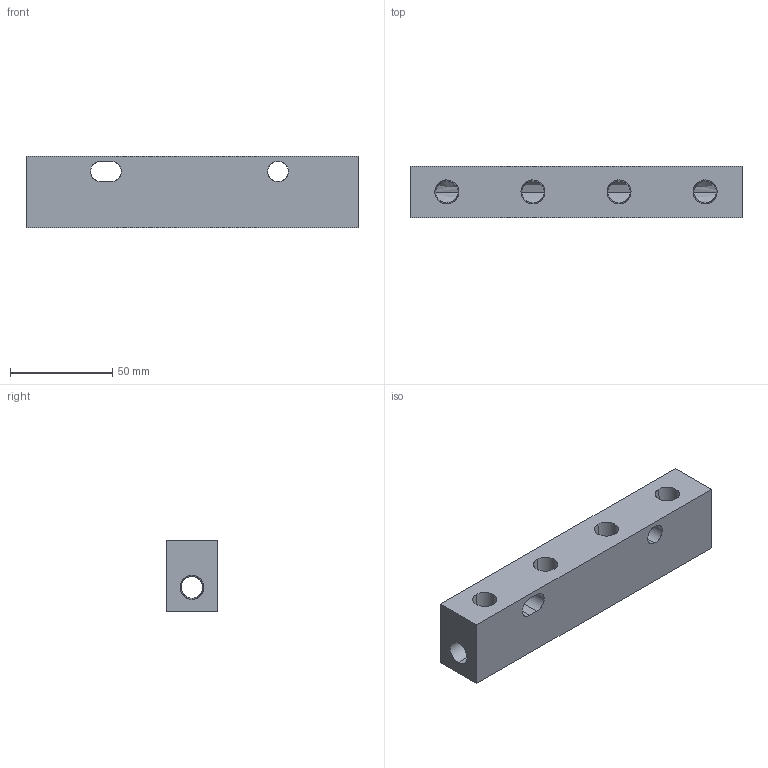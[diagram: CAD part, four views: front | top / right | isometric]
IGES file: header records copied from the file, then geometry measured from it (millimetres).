
Global section: file name: E:\UnigraphicsGraphicData\MISUMI_PRESS-PARTS\IGES\3d_dmfdb_03686_r00.igs; native system: NX V5.0; preprocessor: UGS NX IGES V5.0; author: MISUMI; date: 20110105.160526; units: millimetre
Bounding box: 162 x 25 x 35 mm (x, y, z)
Surface area: 29827.8 mm2 (no closed solid volume)
Topology: 0 solids, 0 shells, 34 faces, 300 edges, 300 vertices
Faces by surface type: bspline 34
